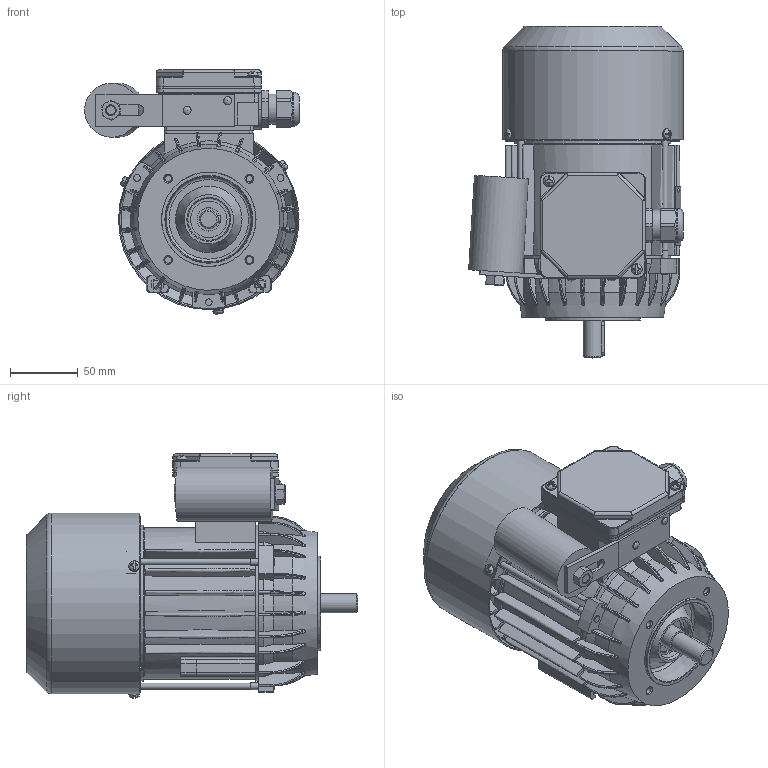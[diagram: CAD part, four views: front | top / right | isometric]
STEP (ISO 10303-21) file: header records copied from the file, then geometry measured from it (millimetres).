
FILE_DESCRIPTION( ( 'Unknown' ), '1' );
FILE_NAME( 'G:/Poczta Tk-1/STP/w.m.71/SEh71/SEKh71-.B2.stp', 'Unknown', ( 'K. Szlosek' ), ( 'BESEL S.A.' ), 'PSStep 17.0.49', 'Unknown', ' ' );
FILE_SCHEMA( ( 'AUTOMOTIVE_DESIGN { 1 0 10303 214 1 1 1 1 }' ) );
Length unit declared in the file: millimetre
Products named in the file (33): Assem1; K4-2820 Uszczelka nr 2 Sh71,80; Wkręt samogwintujący M4x16; K3-6469 Tarcza łożyskowa P S(E,M)h71-B,C; Wpust A5x5x25; Wkręt samogwintujący M4x8; K2-1131 Podstawa skrzynki zaciskowej jednofazowa; Nit 4x12 po skróceniu; K4-2999 Uchwyt kondensatora; nakrętka M8; K1-1194 Kadłub z zamkami Sh71-.B; Kondensator zb 11-16uF Comar; K3-3984 Przewietrznik Sh71; K4-2320 Uszczelka nr 1 Sh71,80; K3-2975 Osłona przewietrznika Sh71-.B,C; K2-0860 Pokrywka skrzynki zaciskowej; K3-4502 wał standard Sh71-B; Nitokołek A 2x6; Łożysko 6203; Śruba ściągająca E_M5x110; Tabliczka znamionowa 32x44; Dławnica M20x1,5; K4-0898 Tulejka uszczelniająca; K1-1245 Tarcza kołnierzowa B14_2 w.m. 71
Assembly tree (49 placements, depth 2):
  Assem1
    K4-2820 Uszczelka nr 2 Sh71,80
    Wkręt samogwintujący M4x16  x2
    K3-6469 Tarcza łożyskowa P S(E,M)h71-B,C
    Wpust A5x5x25
    Wkręt samogwintujący M4x8  x3
    K2-1131 Podstawa skrzynki zaciskowej jednofazowa
    Nit 4x12 po skróceniu  x2
    K4-2999 Uchwyt kondensatora
    nakrętka M8
    K1-1194 Kadłub z zamkami Sh71-.B
    Kondensator zb 11-16uF Comar
    K3-3984 Przewietrznik Sh71
    K4-2320 Uszczelka nr 1 Sh71,80
    K3-2975 Osłona przewietrznika Sh71-.B,C
    K2-0860 Pokrywka skrzynki zaciskowej
    K3-4502 wał standard Sh71-B
    Nitokołek A 2x6  x2
    Łożysko 6203  x2
    Łożysko 6203  x2
    Łożysko 6203  x2
    Łożysko 6203  x2
    Łożysko 6203  x2
    Łożysko 6203  x2
    Łożysko 6203  x2
    Łożysko 6203  x2
    Łożysko 6203  x2
    Łożysko 6203  x2
    Śruba ściągająca E_M5x110  x3
    Tabliczka znamionowa 32x44
    Dławnica M20x1,5
    K4-0898 Tulejka uszczelniająca
    K1-1245 Tarcza kołnierzowa B14_2 w.m. 71
Bounding box: 158.81 x 245.5 x 180.57 mm (x, y, z)
Volume: 685165.2 mm3; surface area: 446417.7 mm2
Topology: 49 solids, 65 shells, 2591 faces, 7065 edges, 4546 vertices
Faces by surface type: plane 1010, cylinder 745, bspline 401, torus 200, cone 193, sphere 42
Full cylindrical faces by diameter (mm): 2 x2, 2.4 x2, 3 x1, 3.7 x7, 3.8 x4, 4 x7, 4.3 x2, 4.5 x3, 4.6 x3, 4.8 x4, 4.917 x4, 5 x10, 5.5 x3, 6 x2, 6.5 x1, 6.647 x1, 7 x1, 8 x10, 10 x2, 14 x1, 15.9 x1, 16.1 x1, 16.5 x1, 17 x4, 17.4 x2, 18.376 x1, 18.38 x1, 20 x1, 22 x2, 22.3 x1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
Entity records: 158702 total; most frequent: CARTESIAN_POINT 81383, ORIENTED_EDGE 12602, DIRECTION 11015, EDGE_CURVE 6301, AXIS2_PLACEMENT_3D 4242, VERTEX_POINT 4208, EDGE_LOOP 2845, FACE_OUTER_BOUND 2533
